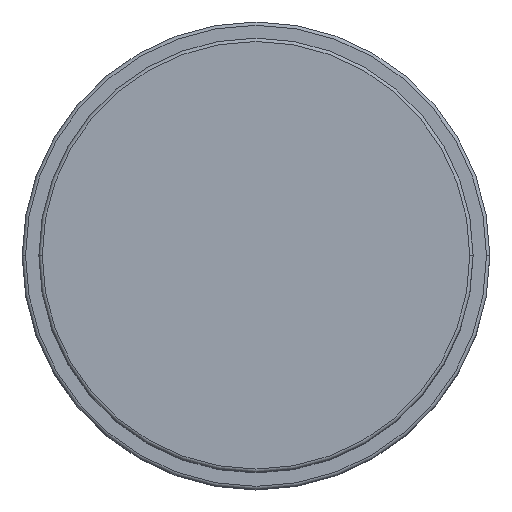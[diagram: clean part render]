
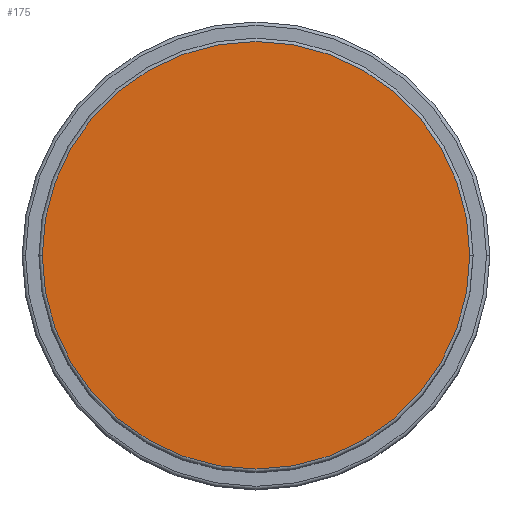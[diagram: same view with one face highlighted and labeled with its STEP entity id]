
A CAD part, top view. The second image highlights one B-rep face of the part: STEP entity #175.
In plain terms, the highlighted planar face has unit normal (0, 0, 1).
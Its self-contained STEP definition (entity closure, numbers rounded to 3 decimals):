
#139 = AXIS2_PLACEMENT_3D ( 'NONE', #1759, #183, #1145 ) ;
#175 = ADVANCED_FACE ( 'NONE', ( #1327 ), #1704, .T. ) ;
#183 = DIRECTION ( 'NONE',  ( 0., 0., 1. ) ) ;
#293 = AXIS2_PLACEMENT_3D ( 'NONE', #735, #1208, #426 ) ;
#315 = DIRECTION ( 'NONE',  ( 1., 0., 0. ) ) ;
#426 = DIRECTION ( 'NONE',  ( 1., 0., 0. ) ) ;
#643 = VERTEX_POINT ( 'NONE', #1478 ) ;
#710 = CIRCLE ( 'NONE', #293, 32. ) ;
#735 = CARTESIAN_POINT ( 'NONE',  ( 0., 0., 77. ) ) ;
#796 = ORIENTED_EDGE ( 'NONE', *, *, #1798, .T. ) ;
#910 = ORIENTED_EDGE ( 'NONE', *, *, #1997, .T. ) ;
#1145 = DIRECTION ( 'NONE',  ( 1., 0., 0. ) ) ;
#1208 = DIRECTION ( 'NONE',  ( 0., 0., 1. ) ) ;
#1231 = CIRCLE ( 'NONE', #139, 32. ) ;
#1233 = CARTESIAN_POINT ( 'NONE',  ( 32., 0., 77. ) ) ;
#1247 = CARTESIAN_POINT ( 'NONE',  ( 0., 0., 77. ) ) ;
#1327 = FACE_OUTER_BOUND ( 'NONE', #1749, .T. ) ;
#1408 = VERTEX_POINT ( 'NONE', #1233 ) ;
#1478 = CARTESIAN_POINT ( 'NONE',  ( -32., 0., 77. ) ) ;
#1543 = AXIS2_PLACEMENT_3D ( 'NONE', #1247, #2018, #315 ) ;
#1704 = PLANE ( 'NONE',  #1543 ) ;
#1749 = EDGE_LOOP ( 'NONE', ( #796, #910 ) ) ;
#1759 = CARTESIAN_POINT ( 'NONE',  ( 0., 0., 77. ) ) ;
#1798 = EDGE_CURVE ( 'NONE', #1408, #643, #1231, .T. ) ;
#1997 = EDGE_CURVE ( 'NONE', #643, #1408, #710, .T. ) ;
#2018 = DIRECTION ( 'NONE',  ( 0., 0., 1. ) ) ;
